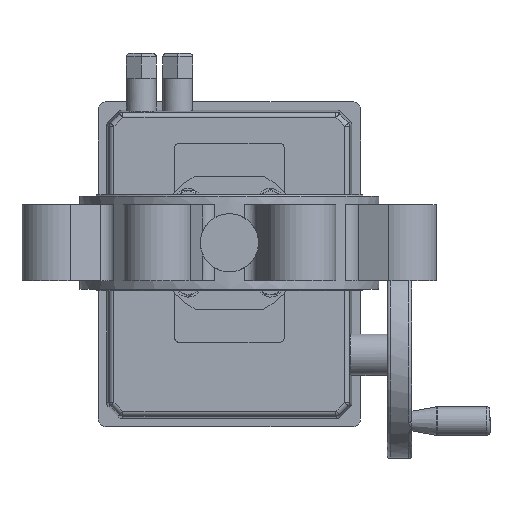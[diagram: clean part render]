
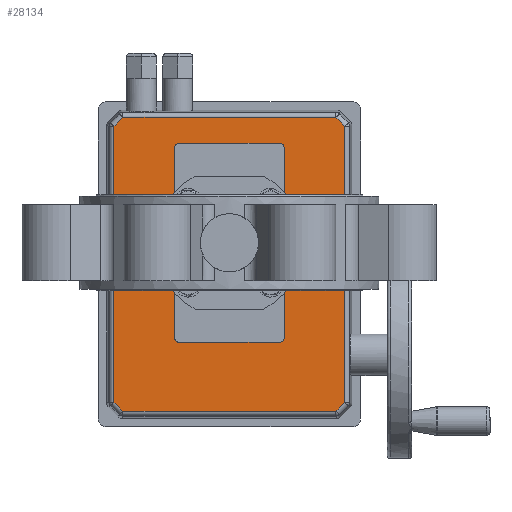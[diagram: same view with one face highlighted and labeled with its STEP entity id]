
A CAD part, front view. The second image highlights one B-rep face of the part: STEP entity #28134.
In plain terms, the highlighted planar face has unit normal (0, -1, 0).
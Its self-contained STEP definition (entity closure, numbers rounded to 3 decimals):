
#164 = ORIENTED_EDGE ( 'NONE', *, *, #1436, .T. ) ;
#210 = ORIENTED_EDGE ( 'NONE', *, *, #4717, .T. ) ;
#269 = DIRECTION ( 'NONE',  ( 0., 1., 0. ) ) ;
#477 = DIRECTION ( 'NONE',  ( 0., 0., -1. ) ) ;
#640 = VERTEX_POINT ( 'NONE', #19175 ) ;
#793 = LINE ( 'NONE', #7484, #4127 ) ;
#914 = VERTEX_POINT ( 'NONE', #11719 ) ;
#1019 = ORIENTED_EDGE ( 'NONE', *, *, #14069, .T. ) ;
#1415 = EDGE_LOOP ( 'NONE', ( #7496, #21055, #11269, #22377, #10781, #23925, #16746, #19509 ) ) ;
#1436 = EDGE_CURVE ( 'NONE', #17643, #24549, #18961, .T. ) ;
#1952 = EDGE_CURVE ( 'NONE', #24549, #26468, #2552, .T. ) ;
#2103 = EDGE_CURVE ( 'NONE', #27635, #8967, #28743, .T. ) ;
#2289 = CARTESIAN_POINT ( 'NONE',  ( 96.149, -45., -69.531 ) ) ;
#2552 = LINE ( 'NONE', #23859, #19434 ) ;
#2785 = EDGE_CURVE ( 'NONE', #3990, #16218, #10027, .T. ) ;
#3141 = ORIENTED_EDGE ( 'NONE', *, *, #13867, .T. ) ;
#3201 = DIRECTION ( 'NONE',  ( 0., 1., 0. ) ) ;
#3434 = VECTOR ( 'NONE', #17074, 1000. ) ;
#3978 = DIRECTION ( 'NONE',  ( 0., 1., 0. ) ) ;
#3990 = VERTEX_POINT ( 'NONE', #15142 ) ;
#4127 = VECTOR ( 'NONE', #14053, 1000. ) ;
#4540 = AXIS2_PLACEMENT_3D ( 'NONE', #15179, #3978, #18997 ) ;
#4571 = LINE ( 'NONE', #26984, #24660 ) ;
#4717 = EDGE_CURVE ( 'NONE', #26468, #11967, #8609, .T. ) ;
#4830 = CARTESIAN_POINT ( 'NONE',  ( -57., -45., 33. ) ) ;
#4871 = DIRECTION ( 'NONE',  ( -0.707, 0., -0.707 ) ) ;
#4873 = CARTESIAN_POINT ( 'NONE',  ( 57., -45., -33. ) ) ;
#5482 = CARTESIAN_POINT ( 'NONE',  ( 60., -45., -30. ) ) ;
#5684 = CARTESIAN_POINT ( 'NONE',  ( 0., -45., -69.531 ) ) ;
#6046 = VECTOR ( 'NONE', #22307, 1000. ) ;
#6072 = DIRECTION ( 'NONE',  ( 0., 0., 1. ) ) ;
#6245 = CARTESIAN_POINT ( 'NONE',  ( -69.84, -45., -69.84 ) ) ;
#6350 = DIRECTION ( 'NONE',  ( 0., 0., 1. ) ) ;
#7007 = CIRCLE ( 'NONE', #23279, 3. ) ;
#7484 = CARTESIAN_POINT ( 'NONE',  ( 82.84, -45., 82.84 ) ) ;
#7496 = ORIENTED_EDGE ( 'NONE', *, *, #8128, .F. ) ;
#8024 = CARTESIAN_POINT ( 'NONE',  ( 101.531, -45., -64.149 ) ) ;
#8128 = EDGE_CURVE ( 'NONE', #914, #18886, #9788, .T. ) ;
#8252 = EDGE_CURVE ( 'NONE', #13571, #24938, #10074, .T. ) ;
#8533 = ORIENTED_EDGE ( 'NONE', *, *, #2785, .T. ) ;
#8609 = LINE ( 'NONE', #10957, #21060 ) ;
#8846 = CARTESIAN_POINT ( 'NONE',  ( 57., -45., -30. ) ) ;
#8869 = DIRECTION ( 'NONE',  ( 0., 0., 1. ) ) ;
#8967 = VERTEX_POINT ( 'NONE', #22053 ) ;
#9788 = LINE ( 'NONE', #16066, #21124 ) ;
#10027 = LINE ( 'NONE', #14108, #27428 ) ;
#10074 = LINE ( 'NONE', #12258, #3434 ) ;
#10111 = CARTESIAN_POINT ( 'NONE',  ( -75.531, -45., -65.349 ) ) ;
#10781 = ORIENTED_EDGE ( 'NONE', *, *, #17723, .T. ) ;
#10957 = CARTESIAN_POINT ( 'NONE',  ( 101.531, -45., 0. ) ) ;
#11109 = CIRCLE ( 'NONE', #12485, 3. ) ;
#11269 = ORIENTED_EDGE ( 'NONE', *, *, #26168, .T. ) ;
#11443 = DIRECTION ( 'NONE',  ( 0.707, 0., 0.707 ) ) ;
#11647 = AXIS2_PLACEMENT_3D ( 'NONE', #8846, #13228, #6350 ) ;
#11719 = CARTESIAN_POINT ( 'NONE',  ( -60., -45., 30. ) ) ;
#11775 = CARTESIAN_POINT ( 'NONE',  ( -57., -45., -33. ) ) ;
#11967 = VERTEX_POINT ( 'NONE', #17357 ) ;
#12018 = VERTEX_POINT ( 'NONE', #23592 ) ;
#12258 = CARTESIAN_POINT ( 'NONE',  ( 0., -45., -33. ) ) ;
#12485 = AXIS2_PLACEMENT_3D ( 'NONE', #19664, #28071, #6072 ) ;
#12959 = DIRECTION ( 'NONE',  ( 0.707, 0., -0.707 ) ) ;
#13027 = VECTOR ( 'NONE', #19157, 1000. ) ;
#13228 = DIRECTION ( 'NONE',  ( 0., 1., 0. ) ) ;
#13418 = LINE ( 'NONE', #17661, #6046 ) ;
#13458 = VECTOR ( 'NONE', #27805, 1000. ) ;
#13571 = VERTEX_POINT ( 'NONE', #11775 ) ;
#13867 = EDGE_CURVE ( 'NONE', #11967, #3990, #793, .T. ) ;
#14053 = DIRECTION ( 'NONE',  ( -0.707, 0., 0.707 ) ) ;
#14069 = EDGE_CURVE ( 'NONE', #12018, #640, #28708, .T. ) ;
#14104 = CARTESIAN_POINT ( 'NONE',  ( -70.149, -45., 69.531 ) ) ;
#14108 = CARTESIAN_POINT ( 'NONE',  ( -71.349, -45., 69.531 ) ) ;
#14381 = CARTESIAN_POINT ( 'NONE',  ( -60., -45., -30. ) ) ;
#14604 = DIRECTION ( 'NONE',  ( 1., 0., 0. ) ) ;
#14952 = VERTEX_POINT ( 'NONE', #4830 ) ;
#15142 = CARTESIAN_POINT ( 'NONE',  ( 96.149, -45., 69.531 ) ) ;
#15179 = CARTESIAN_POINT ( 'NONE',  ( 57., -45., 30. ) ) ;
#15269 = VERTEX_POINT ( 'NONE', #5482 ) ;
#15558 = ORIENTED_EDGE ( 'NONE', *, *, #1952, .T. ) ;
#15563 = AXIS2_PLACEMENT_3D ( 'NONE', #22552, #269, #8869 ) ;
#15887 = EDGE_CURVE ( 'NONE', #914, #14952, #7007, .T. ) ;
#15995 = PLANE ( 'NONE',  #15563 ) ;
#16066 = CARTESIAN_POINT ( 'NONE',  ( -60., -45., 0. ) ) ;
#16218 = VERTEX_POINT ( 'NONE', #14104 ) ;
#16317 = CARTESIAN_POINT ( 'NONE',  ( -57., -45., 30. ) ) ;
#16746 = ORIENTED_EDGE ( 'NONE', *, *, #8252, .F. ) ;
#17074 = DIRECTION ( 'NONE',  ( 1., 0., 0. ) ) ;
#17340 = LINE ( 'NONE', #6245, #24312 ) ;
#17357 = CARTESIAN_POINT ( 'NONE',  ( 101.531, -45., 64.149 ) ) ;
#17359 = DIRECTION ( 'NONE',  ( 0., 0., 1. ) ) ;
#17516 = CARTESIAN_POINT ( 'NONE',  ( -70.149, -45., -69.531 ) ) ;
#17643 = VERTEX_POINT ( 'NONE', #17516 ) ;
#17661 = CARTESIAN_POINT ( 'NONE',  ( 60., -45., 0. ) ) ;
#17723 = EDGE_CURVE ( 'NONE', #8967, #15269, #13418, .T. ) ;
#17842 = EDGE_CURVE ( 'NONE', #15269, #24938, #22792, .T. ) ;
#18149 = EDGE_CURVE ( 'NONE', #16218, #12018, #4571, .T. ) ;
#18338 = FACE_BOUND ( 'NONE', #1415, .T. ) ;
#18741 = ORIENTED_EDGE ( 'NONE', *, *, #24192, .T. ) ;
#18886 = VERTEX_POINT ( 'NONE', #14381 ) ;
#18943 = VECTOR ( 'NONE', #14604, 1000. ) ;
#18961 = LINE ( 'NONE', #5684, #13458 ) ;
#18997 = DIRECTION ( 'NONE',  ( 0., 0., 1. ) ) ;
#19147 = LINE ( 'NONE', #26256, #18943 ) ;
#19157 = DIRECTION ( 'NONE',  ( 0., 0., -1. ) ) ;
#19175 = CARTESIAN_POINT ( 'NONE',  ( -75.531, -45., -64.149 ) ) ;
#19434 = VECTOR ( 'NONE', #11443, 1000. ) ;
#19509 = ORIENTED_EDGE ( 'NONE', *, *, #21470, .T. ) ;
#19664 = CARTESIAN_POINT ( 'NONE',  ( -57., -45., -30. ) ) ;
#20151 = ORIENTED_EDGE ( 'NONE', *, *, #18149, .T. ) ;
#20451 = EDGE_LOOP ( 'NONE', ( #1019, #18741, #164, #15558, #210, #3141, #8533, #20151 ) ) ;
#20627 = CARTESIAN_POINT ( 'NONE',  ( 57., -45., 33. ) ) ;
#21055 = ORIENTED_EDGE ( 'NONE', *, *, #15887, .T. ) ;
#21060 = VECTOR ( 'NONE', #17359, 1000. ) ;
#21124 = VECTOR ( 'NONE', #477, 1000. ) ;
#21470 = EDGE_CURVE ( 'NONE', #13571, #18886, #11109, .T. ) ;
#22053 = CARTESIAN_POINT ( 'NONE',  ( 60., -45., 30. ) ) ;
#22307 = DIRECTION ( 'NONE',  ( 0., 0., -1. ) ) ;
#22314 = DIRECTION ( 'NONE',  ( -1., 0., 0. ) ) ;
#22377 = ORIENTED_EDGE ( 'NONE', *, *, #2103, .T. ) ;
#22552 = CARTESIAN_POINT ( 'NONE',  ( 0., -45., 0. ) ) ;
#22792 = CIRCLE ( 'NONE', #11647, 3. ) ;
#23279 = AXIS2_PLACEMENT_3D ( 'NONE', #16317, #3201, #27798 ) ;
#23592 = CARTESIAN_POINT ( 'NONE',  ( -75.531, -45., 64.149 ) ) ;
#23859 = CARTESIAN_POINT ( 'NONE',  ( 82.84, -45., -82.84 ) ) ;
#23925 = ORIENTED_EDGE ( 'NONE', *, *, #17842, .T. ) ;
#24192 = EDGE_CURVE ( 'NONE', #640, #17643, #17340, .T. ) ;
#24312 = VECTOR ( 'NONE', #12959, 1000. ) ;
#24549 = VERTEX_POINT ( 'NONE', #2289 ) ;
#24660 = VECTOR ( 'NONE', #4871, 1000. ) ;
#24938 = VERTEX_POINT ( 'NONE', #4873 ) ;
#26168 = EDGE_CURVE ( 'NONE', #14952, #27635, #19147, .T. ) ;
#26256 = CARTESIAN_POINT ( 'NONE',  ( 0., -45., 33. ) ) ;
#26468 = VERTEX_POINT ( 'NONE', #8024 ) ;
#26475 = FACE_OUTER_BOUND ( 'NONE', #20451, .T. ) ;
#26984 = CARTESIAN_POINT ( 'NONE',  ( -76.38, -45., 63.301 ) ) ;
#27428 = VECTOR ( 'NONE', #22314, 1000. ) ;
#27635 = VERTEX_POINT ( 'NONE', #20627 ) ;
#27798 = DIRECTION ( 'NONE',  ( 0., 0., 1. ) ) ;
#27805 = DIRECTION ( 'NONE',  ( 1., 0., 0. ) ) ;
#28071 = DIRECTION ( 'NONE',  ( 0., 1., 0. ) ) ;
#28134 = ADVANCED_FACE ( 'NONE', ( #26475, #18338 ), #15995, .F. ) ;
#28708 = LINE ( 'NONE', #10111, #13027 ) ;
#28743 = CIRCLE ( 'NONE', #4540, 3. ) ;
